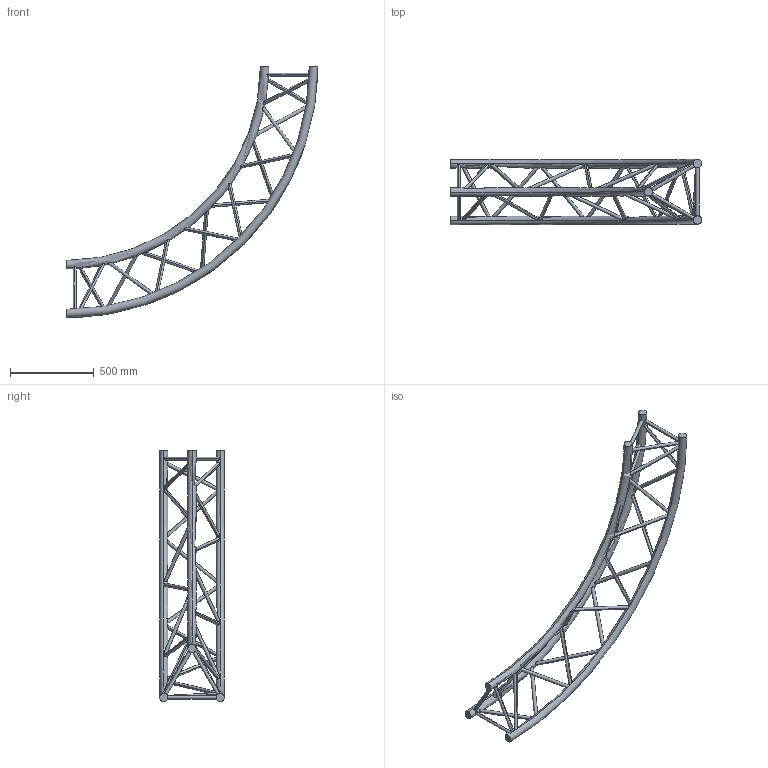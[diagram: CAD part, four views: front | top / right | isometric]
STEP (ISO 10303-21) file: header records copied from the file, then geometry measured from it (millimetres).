
FILE_DESCRIPTION (( 'STEP AP203' ), '1' );
FILE_NAME ('SXC39300PI.STEP', '2009-10-21T11:46:14', ( 'CEDIA' ), ( 'CEDIA INDUSTRIE' ), 'SwSTEP 2.0', 'SolidWorks 2009', '' );
FILE_SCHEMA (( 'CONFIG_CONTROL_DESIGN' ));
Length unit declared in the file: millimetre
Products named in the file (1): SXC39300PI
Bounding box: 1500 x 387 x 1500 mm (x, y, z)
Volume: 15980854.2 mm3; surface area: 1657460.8 mm2
Topology: 1 solids, 1 shells, 72 faces, 198 edges, 132 vertices
Faces by surface type: cylinder 60, torus 6, plane 6
Entity records: 8107 total; most frequent: CARTESIAN_POINT 6301, ORIENTED_EDGE 396, DIRECTION 242, EDGE_CURVE 198, EDGE_LOOP 132, VERTEX_POINT 132, B_SPLINE_CURVE_WITH_KNOTS 120, AXIS2_PLACEMENT_3D 91
